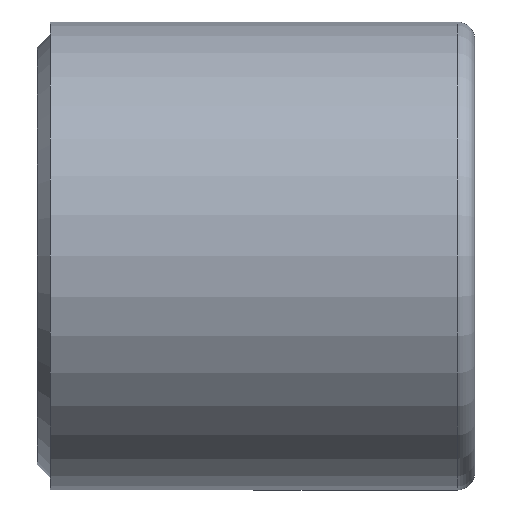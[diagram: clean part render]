
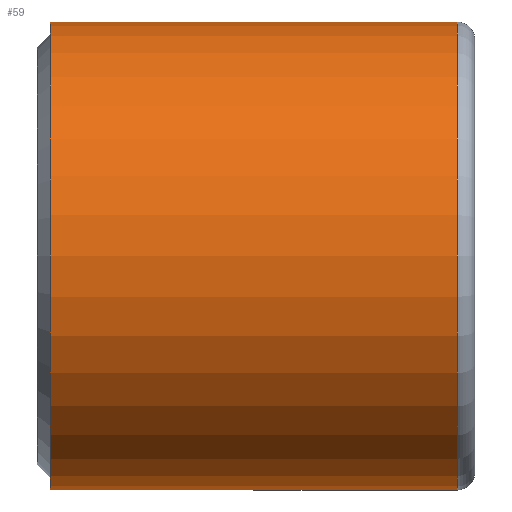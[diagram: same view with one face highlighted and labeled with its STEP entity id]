
A CAD part, front view. The second image highlights one B-rep face of the part: STEP entity #59.
In plain terms, the highlighted cylindrical face has radius 25.667 mm (diameter 51.333 mm), a partial arc.
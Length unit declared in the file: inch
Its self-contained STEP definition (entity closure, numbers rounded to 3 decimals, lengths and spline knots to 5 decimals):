
#27 = VERTEX_POINT ( 'NONE', #919 ) ;
#30 = CIRCLE ( 'NONE', #575, 1.0105 ) ;
#37 = EDGE_CURVE ( 'NONE', #154, #215, #30, .T. ) ;
#38 = DIRECTION ( 'NONE',  ( -1., 0., 0. ) ) ;
#48 = DIRECTION ( 'NONE',  ( -1., 0., 0. ) ) ;
#53 = LINE ( 'NONE', #641, #143 ) ;
#59 = ADVANCED_FACE ( 'NONE', ( #547 ), #109, .T. ) ;
#65 = VERTEX_POINT ( 'NONE', #151 ) ;
#71 = VECTOR ( 'NONE', #48, 39.37008 ) ;
#80 = ORIENTED_EDGE ( 'NONE', *, *, #827, .T. ) ;
#97 = EDGE_LOOP ( 'NONE', ( #120, #728, #80, #790 ) ) ;
#109 = CYLINDRICAL_SURFACE ( 'NONE', #767, 1.0105 ) ;
#119 = EDGE_CURVE ( 'NONE', #27, #65, #247, .T. ) ;
#120 = ORIENTED_EDGE ( 'NONE', *, *, #224, .F. ) ;
#143 = VECTOR ( 'NONE', #493, 39.37008 ) ;
#151 = CARTESIAN_POINT ( 'NONE',  ( 0.05674, 0., 1.0105 ) ) ;
#154 = VERTEX_POINT ( 'NONE', #834 ) ;
#215 = VERTEX_POINT ( 'NONE', #349 ) ;
#224 = EDGE_CURVE ( 'NONE', #154, #27, #53, .T. ) ;
#231 = CARTESIAN_POINT ( 'NONE',  ( 0., 0., 0. ) ) ;
#247 = CIRCLE ( 'NONE', #955, 1.0105 ) ;
#261 = CARTESIAN_POINT ( 'NONE',  ( 1.81424, 0., 0. ) ) ;
#273 = LINE ( 'NONE', #278, #71 ) ;
#278 = CARTESIAN_POINT ( 'NONE',  ( 0., 0., 1.0105 ) ) ;
#349 = CARTESIAN_POINT ( 'NONE',  ( 1.81424, 0., 1.0105 ) ) ;
#402 = CARTESIAN_POINT ( 'NONE',  ( 0.05674, 0., 0. ) ) ;
#493 = DIRECTION ( 'NONE',  ( -1., 0., 0. ) ) ;
#541 = DIRECTION ( 'NONE',  ( -1., 0., 0. ) ) ;
#547 = FACE_OUTER_BOUND ( 'NONE', #97, .T. ) ;
#553 = DIRECTION ( 'NONE',  ( -1., 0., 0. ) ) ;
#575 = AXIS2_PLACEMENT_3D ( 'NONE', #261, #553, #779 ) ;
#641 = CARTESIAN_POINT ( 'NONE',  ( 0., 0., -1.0105 ) ) ;
#676 = DIRECTION ( 'NONE',  ( 0., 0., 1. ) ) ;
#728 = ORIENTED_EDGE ( 'NONE', *, *, #37, .T. ) ;
#767 = AXIS2_PLACEMENT_3D ( 'NONE', #231, #541, #676 ) ;
#768 = DIRECTION ( 'NONE',  ( 0., 0., 1. ) ) ;
#779 = DIRECTION ( 'NONE',  ( 0., 0., 1. ) ) ;
#790 = ORIENTED_EDGE ( 'NONE', *, *, #119, .F. ) ;
#827 = EDGE_CURVE ( 'NONE', #215, #65, #273, .T. ) ;
#834 = CARTESIAN_POINT ( 'NONE',  ( 1.81424, 0., -1.0105 ) ) ;
#919 = CARTESIAN_POINT ( 'NONE',  ( 0.05674, 0., -1.0105 ) ) ;
#955 = AXIS2_PLACEMENT_3D ( 'NONE', #402, #38, #768 ) ;
